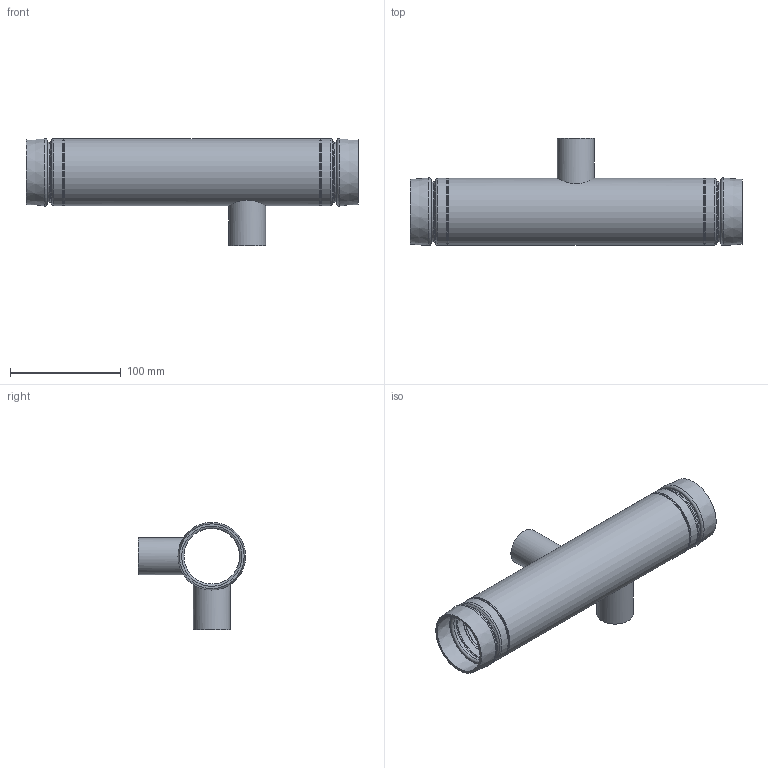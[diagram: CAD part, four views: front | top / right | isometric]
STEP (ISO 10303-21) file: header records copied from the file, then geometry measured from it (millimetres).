
FILE_DESCRIPTION(/* description */ ('VIC STRENGTHIN NIPPLE No E494I','CAx-IF Rec.Pracs.---Representation and Presentation of Product Manufacturing Information (PMI)---4.0---2014-10-13'),/* implementation_level */ '2;1');
FILE_NAME(/* name */ 'C:\ST100\STEP\Victaulic_SS-StrengThin 100_Nipple Instrumentation_No E494I (ST1)\Victaulic_SS-StrengThin 100_Nipple Instrumentation_No E494I (ST1)_2 (50).stp',/* time_stamp */ '2021-06-17T18:16:17+06:00',/* author */ ('kkamble'),/* organization */ ('Victaulic'),/* preprocessor_version */ 'ST-DEVELOPER v17.2',/* originating_system */ 'Autodesk Inventor 2019',/* authorisation */ '');
FILE_SCHEMA (('AP242_MANAGED_MODEL_BASED_3D_ENGINEERING_MIM_LF { 1 0 10303 442 1 1 4 }'));
Length unit declared in the file: inch
Products named in the file (1): E494I-02.0
Bounding box: 299.72 x 96.78 x 96.78 mm (x, y, z)
Volume: 145895.8 mm3; surface area: 124859.9 mm2
Topology: 1 solids, 1 shells, 60 faces, 196 edges, 146 vertices
Faces by surface type: torus 26, cylinder 16, plane 10, cone 8
Full cylindrical faces by diameter (mm): 21.336 x2, 26.67 x2, 33.401 x2, 50.267 x2, 54.331 x2, 56.261 x3, 60.325 x3
Entity records: 2704 total; most frequent: CARTESIAN_POINT 604, DIRECTION 500, ORIENTED_EDGE 392, AXIS2_PLACEMENT_3D 238, EDGE_CURVE 196, CIRCLE 164, VERTEX_POINT 146, EDGE_LOOP 74
